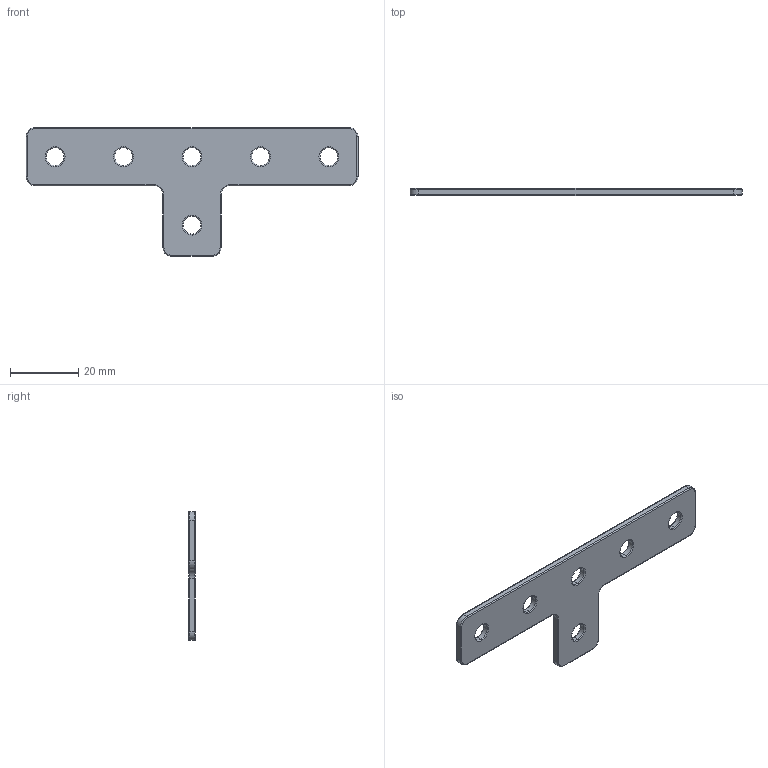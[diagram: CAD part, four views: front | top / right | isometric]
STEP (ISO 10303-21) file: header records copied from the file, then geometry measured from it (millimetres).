
FILE_DESCRIPTION (( 'STEP AP203' ), '1' );
FILE_NAME ('ﾒ-6-20.STEP', '2016-07-22T10:06:48', ( '' ), ( '' ), 'SwSTEP 2.0', 'SolidWorks 2014', '' );
FILE_SCHEMA (( 'CONFIG_CONTROL_DESIGN' ));
Length unit declared in the file: millimetre
Products named in the file (1): ﾒ-6-20
Bounding box: 97 x 2 x 37.62 mm (x, y, z)
Volume: 3718.7 mm3; surface area: 4357.5 mm2
Topology: 1 solids, 1 shells, 86 faces, 196 edges, 112 vertices
Faces by surface type: torus 40, cylinder 36, plane 10
Entity records: 2529 total; most frequent: DIRECTION 506, CARTESIAN_POINT 395, ORIENTED_EDGE 392, AXIS2_PLACEMENT_3D 223, EDGE_CURVE 196, CIRCLE 136, VERTEX_POINT 112, EDGE_LOOP 98
